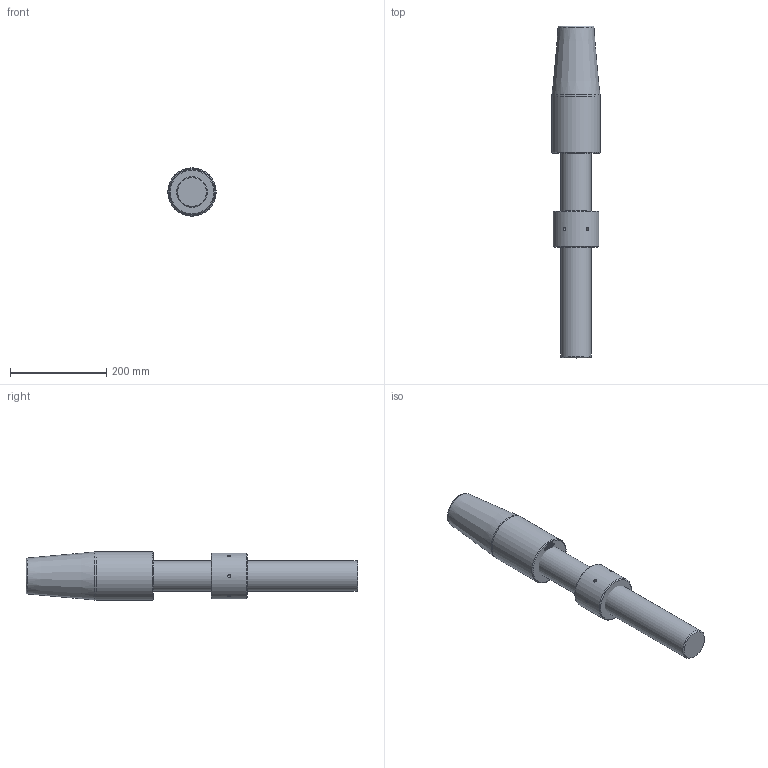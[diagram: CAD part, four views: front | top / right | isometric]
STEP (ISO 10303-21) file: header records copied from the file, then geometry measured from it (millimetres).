
FILE_DESCRIPTION(/* description */ (''),/* implementation_level */ '2;1');
FILE_NAME(/* name */ 'C:\Users\ranca\Desktop\CYM\ARRANGEMENT\CYM032 52 061 0.stp',/* time_stamp */ '2021-04-22T18:27:17+02:00',/* author */ ('ranca'),/* organization */ (''),/* preprocessor_version */ 'ST-DEVELOPER v16.13',/* originating_system */ 'Autodesk Inventor 2018',/* authorisation */ '');
FILE_SCHEMA (('AUTOMOTIVE_DESIGN { 1 0 10303 214 3 1 1 }'));
Length unit declared in the file: millimetre
Products named in the file (4): CYM032-52-061-0; CYM012-52-061-0_ROD; CYC032 52 065 0_CYL SOK_RH; CYM032-41-051-0
Assembly tree (3 placements, depth 2):
  CYM032-52-061-0
    CYM012-52-061-0_ROD
    CYC032 52 065 0_CYL SOK_RH
    CYM032-41-051-0
Bounding box: 100 x 689 x 100 mm (x, y, z)
Volume: 3941256.1 mm3; surface area: 231959.3 mm2
Topology: 3 solids, 3 shells, 550 faces, 1498 edges, 996 vertices
Faces by surface type: bspline 302, plane 226, cone 11, cylinder 9, torus 2
Full cylindrical faces by diameter (mm): 6 x6, 64 x1, 95 x1, 100 x1
Entity records: 18985 total; most frequent: CARTESIAN_POINT 7167, ORIENTED_EDGE 2938, EDGE_CURVE 1469, DIRECTION 1386, VERTEX_POINT 990, LINE 832, VECTOR 832, EDGE_LOOP 615
